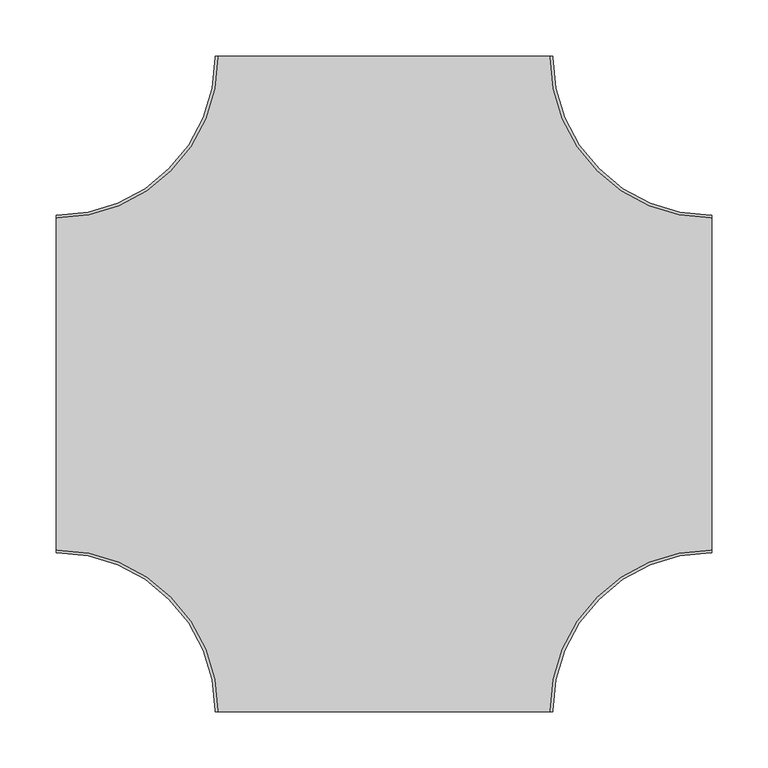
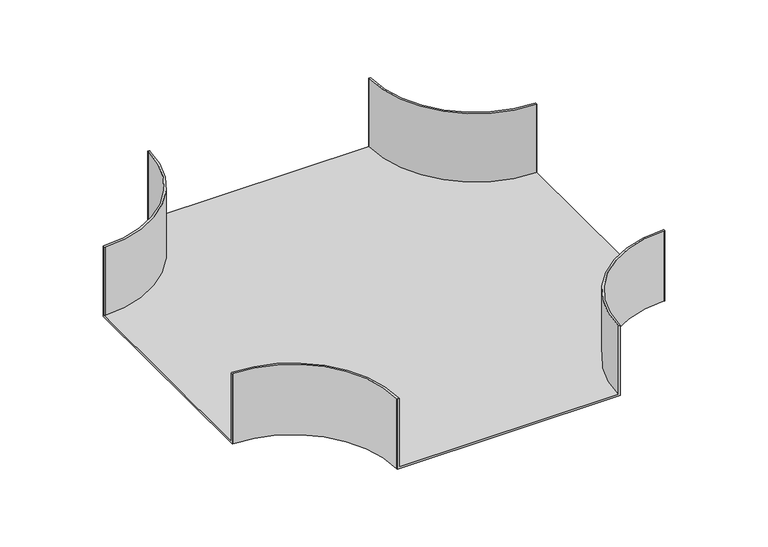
"""IFC4 building model written with IfcOpenShell, lengths in millimetres: cable carrier fitting geometry, BAKS_Horizontal cross over radius : CZKPP_H100."""

from ifc_helpers import new_model, si_unit, frame, origin, place, context, project, spatial, polyline, circle_curve, source, transform, mapped, element, save
from ifc_brep_helpers import plane_surface, cylinder_surface, revolved_surface, advanced_brep


def cable_carrier_fitting_ebb341f6(model_context):
    return source(origin(), model_context, "Body", "AdvancedBrep", [
        advanced_brep(
        [(-150.0, -290.0, 50.0), (-150.0, -291.0, 50.0), (-147.46, -291.0, 50.0), (-147.46, -290.0, 50.0), (-290.0, -147.46, 50.0), (-291.0, -147.46, 50.0), (-291.0, -150.0, 50.0), (-290.0, -150.0, 50.0), (150.0, -290.0, 50.0), (290.0, -150.0, 50.0), (291.0, -150.0, 50.0), (291.0, -147.46, 50.0), (290.0, -147.46, 50.0), (147.46, -290.0, 50.0), (147.46, -291.0, 50.0), (150.0, -291.0, 50.0), (-290.0, 150.0, 50.0), (-291.0, 150.0, 50.0), (-291.0, 147.46, 50.0), (-290.0, 147.46, 50.0), (-147.46, 290.0, 50.0), (-147.46, 291.0, 50.0), (-150.0, 291.0, 50.0), (-150.0, 290.0, 50.0), (147.46, 290.0, 50.0), (290.0, 147.46, 50.0), (291.0, 147.46, 50.0), (291.0, 150.0, 50.0), (290.0, 150.0, 50.0), (150.0, 290.0, 50.0), (150.0, 291.0, 50.0), (147.46, 291.0, 50.0), (-150.0, -290.0, -50.0), (-290.0, -150.0, -50.0), (-291.0, -150.0, -50.0), (-291.0, 150.0, -50.0), (-290.0, 150.0, -50.0), (-150.0, 290.0, -50.0), (-150.0, 291.0, -50.0), (150.0, 291.0, -50.0), (150.0, 290.0, -50.0), (290.0, 150.0, -50.0), (291.0, 150.0, -50.0), (291.0, -150.0, -50.0), (290.0, -150.0, -50.0), (150.0, -290.0, -50.0), (150.0, -291.0, -50.0), (-150.0, -291.0, -50.0), (-150.0, -290.0, -47.46), (147.46, -291.0, -47.46), (-147.46, -291.0, -47.46), (-147.46, -290.0, -47.46), (-290.0, -147.46, -47.46), (-291.0, -147.46, -47.46), (-291.0, 147.46, -47.46), (-290.0, -150.0, -47.46), (150.0, -290.0, -47.46), (290.0, -150.0, -47.46), (291.0, 147.46, -47.46), (291.0, -147.46, -47.46), (290.0, -147.46, -47.46), (147.46, -290.0, -47.46), (290.0, 147.46, -47.46), (147.46, 290.0, -47.46), (147.46, 291.0, -47.46), (-147.46, 291.0, -47.46), (-147.46, 290.0, -47.46), (-290.0, 147.46, -47.46), (-290.0, 150.0, -47.46), (-150.0, 290.0, -47.46), (290.0, 150.0, -47.46), (150.0, 290.0, -47.46)],
        [
            (0, 1),
            (1, 2),
            (2, 3),
            (3, 4, circle_curve(frame((-290.0, -290.0, 50.0), z_axis=(0.0, 0.0, 1.0), x_axis=(1.0, 0.0, 0.0)), 142.54)),
            (4, 5),
            (5, 6),
            (6, 7),
            (7, 0, circle_curve(frame((-290.0, -290.0, 50.0), z_axis=(0.0, 0.0, -1.0), x_axis=(1.0, 0.0, 0.0)), 140.0)),
            (8, 9, circle_curve(frame((290.0, -290.0, 50.0), z_axis=(0.0, 0.0, -1.0), x_axis=(1.0, 0.0, 0.0)), 140.0)),
            (9, 10),
            (10, 11),
            (11, 12),
            (12, 13, circle_curve(frame((290.0, -290.0, 50.0), z_axis=(0.0, 0.0, 1.0), x_axis=(1.0, 0.0, 0.0)), 142.54)),
            (13, 14),
            (14, 15),
            (15, 8),
            (16, 17),
            (17, 18),
            (18, 19),
            (19, 20, circle_curve(frame((-290.0, 290.0, 50.0), z_axis=(0.0, 0.0, 1.0), x_axis=(1.0, 0.0, 0.0)), 142.54)),
            (20, 21),
            (21, 22),
            (22, 23),
            (23, 16, circle_curve(frame((-290.0, 290.0, 50.0), z_axis=(0.0, 0.0, -1.0), x_axis=(1.0, 0.0, 0.0)), 140.0)),
            (24, 25, circle_curve(frame((290.0, 290.0, 50.0), z_axis=(0.0, 0.0, 1.0), x_axis=(1.0, 0.0, 0.0)), 142.54)),
            (25, 26),
            (26, 27),
            (27, 28),
            (28, 29, circle_curve(frame((290.0, 290.0, 50.0), z_axis=(0.0, 0.0, -1.0), x_axis=(1.0, 0.0, 0.0)), 140.0)),
            (29, 30),
            (30, 31),
            (31, 24),
            (32, 33, circle_curve(frame((-290.0, -290.0, -50.0), z_axis=(0.0, 0.0, 1.0), x_axis=(1.0, 0.0, 0.0)), 140.0)),
            (33, 34),
            (34, 35),
            (35, 36),
            (36, 37, circle_curve(frame((-290.0, 290.0, -50.0), z_axis=(0.0, 0.0, 1.0), x_axis=(1.0, 0.0, 0.0)), 140.0)),
            (37, 38),
            (38, 39),
            (39, 40),
            (40, 41, circle_curve(frame((290.0, 290.0, -50.0), z_axis=(0.0, 0.0, 1.0), x_axis=(1.0, 0.0, 0.0)), 140.0)),
            (41, 42),
            (42, 43),
            (43, 44),
            (44, 45, circle_curve(frame((290.0, -290.0, -50.0), z_axis=(0.0, 0.0, 1.0), x_axis=(1.0, 0.0, 0.0)), 140.0)),
            (45, 46),
            (46, 47),
            (47, 32),
            (47, 1),
            (0, 48),
            (48, 32),
            (46, 15),
            (14, 49),
            (49, 50),
            (50, 2),
            (50, 51),
            (51, 3),
            (51, 52, circle_curve(frame((-290.0, -290.0, -47.46), z_axis=(0.0, 0.0, 1.0), x_axis=(1.0, 0.0, 0.0)), 142.54)),
            (52, 4),
            (52, 53),
            (53, 5),
            (53, 54),
            (54, 18),
            (17, 35),
            (34, 6),
            (33, 55),
            (55, 7),
            (8, 56),
            (56, 45),
            (44, 57),
            (57, 9),
            (43, 10),
            (42, 27),
            (26, 58),
            (58, 59),
            (59, 11),
            (59, 60),
            (60, 12),
            (60, 61, circle_curve(frame((290.0, -290.0, -47.46), z_axis=(0.0, 0.0, 1.0), x_axis=(1.0, 0.0, 0.0)), 142.54)),
            (61, 13),
            (61, 49),
            (58, 62),
            (62, 63, circle_curve(frame((290.0, 290.0, -47.46), z_axis=(0.0, 0.0, -1.0), x_axis=(1.0, 0.0, 0.0)), 142.54)),
            (63, 64),
            (64, 65),
            (65, 66),
            (66, 67, circle_curve(frame((-290.0, 290.0, -47.46), z_axis=(0.0, 0.0, -1.0), x_axis=(1.0, 0.0, 0.0)), 142.54)),
            (67, 54),
            (16, 68),
            (68, 36),
            (67, 19),
            (66, 20),
            (65, 21),
            (64, 31),
            (30, 39),
            (38, 22),
            (37, 69),
            (69, 23),
            (24, 63),
            (62, 25),
            (41, 70),
            (70, 28),
            (40, 71),
            (71, 29),
        ],
        [
            plane_surface(frame((-150.0, -290.0, 50.0), z_axis=(0.0, 0.0, 1.0), x_axis=(0.0, -1.0, 0.0))),
            plane_surface(frame((-150.0, -290.0, -50.0), z_axis=(0.0, 0.0, -1.0), x_axis=(0.0, 1.0, 0.0))),
            plane_surface(frame((-150.0, -290.0, 50.0), z_axis=(-1.0, 0.0, 0.0), x_axis=(0.0, 0.0, -1.0))),
            plane_surface(frame((-150.0, -291.0, 50.0), z_axis=(0.0, -1.0, 0.0), x_axis=(0.0, 0.0, -1.0))),
            plane_surface(frame((-147.46, -291.0, 50.0), z_axis=(1.0, 0.0, 0.0), x_axis=(0.0, 0.0, -1.0))),
            cylinder_surface(frame((-290.0, -290.0, -50.0), z_axis=(0.0, 0.0, 1.0), x_axis=(1.0, 0.0, 0.0)), 142.54),
            plane_surface(frame((-290.0, -147.46, 50.0), z_axis=(0.0, 1.0, 0.0), x_axis=(0.0, 0.0, -1.0))),
            plane_surface(frame((-291.0, -147.46, 50.0), z_axis=(-1.0, 0.0, 0.0), x_axis=(0.0, 0.0, -1.0))),
            plane_surface(frame((-291.0, -150.0, 50.0), z_axis=(2.605649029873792e-12, -1.0, 0.0), x_axis=(0.0, 0.0, -1.0))),
            revolved_surface(polyline([(-150.0, -290.0, -50.0), (-150.0, -290.0, 50.0)]), (-290.0, -290.0, -50.0), (0.0, 0.0, -1.0)),
            revolved_surface(polyline([(430.0, -290.0, -50.0), (430.0, -290.0, 50.0)]), (290.0, -290.0, 0.0), (0.0, 0.0, -1.0)),
            plane_surface(frame((290.0, -150.0, 50.0), z_axis=(-2.6056490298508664e-12, -1.0, 0.0), x_axis=(0.0, 0.0, -1.0))),
            plane_surface(frame((291.0, -150.0, 50.0), z_axis=(1.0, 0.0, 0.0), x_axis=(0.0, 0.0, -1.0))),
            plane_surface(frame((291.0, -147.46, 50.0), z_axis=(0.0, 1.0, 0.0), x_axis=(0.0, 0.0, -1.0))),
            cylinder_surface(frame((290.0, -290.0, 0.0), z_axis=(0.0, 0.0, 1.0), x_axis=(1.0, 0.0, 0.0)), 142.54),
            plane_surface(frame((147.46, -290.0, 50.0), z_axis=(-1.0, 0.0, 0.0), x_axis=(0.0, 0.0, -1.0))),
            plane_surface(frame((150.0, -291.0, 50.0), z_axis=(1.0, 0.0, 0.0), x_axis=(0.0, 0.0, -1.0))),
            plane_surface(frame((-150.0, -290.0, -47.46), z_axis=(0.0, 0.0, 1.0), x_axis=(1.8104184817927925e-12, -1.0, 0.0))),
            plane_surface(frame((-290.0, 150.0, 50.0), z_axis=(4.404223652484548e-11, 1.0, 0.0), x_axis=(0.0, 0.0, -1.0))),
            plane_surface(frame((-291.0, 147.46, 50.0), z_axis=(-4.673248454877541e-11, -1.0, 0.0), x_axis=(0.0, 0.0, -1.0))),
            cylinder_surface(frame((-290.0, 290.0, 0.0), z_axis=(0.0, 0.0, 1.0), x_axis=(1.0, 0.0, 0.0)), 142.54),
            plane_surface(frame((-147.46, 290.0, 50.0), z_axis=(1.0, -1.4889423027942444e-12, 0.0), x_axis=(0.0, 0.0, -1.0))),
            plane_surface(frame((-147.46, 291.0, 50.0), z_axis=(0.0, 1.0, 0.0), x_axis=(0.0, 0.0, -1.0))),
            plane_surface(frame((-150.0, 291.0, 50.0), z_axis=(-1.0, 1.8104184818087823e-12, 0.0), x_axis=(0.0, 0.0, -1.0))),
            revolved_surface(polyline([(-150.0, 290.0, -50.0), (-150.0, 290.0, 50.0)]), (-290.0, 290.0, 0.0), (0.0, 0.0, -1.0)),
            cylinder_surface(frame((290.0, 290.0, 0.0), z_axis=(0.0, 0.0, 1.0), x_axis=(1.0, 0.0, 0.0)), 142.54),
            plane_surface(frame((290.0, 147.46, 50.0), z_axis=(0.0, -1.0, 0.0), x_axis=(0.0, 0.0, -1.0))),
            plane_surface(frame((291.0, 150.0, 50.0), z_axis=(0.0, 1.0, 0.0), x_axis=(0.0, 0.0, -1.0))),
            revolved_surface(polyline([(430.0, 290.0, -50.0), (430.0, 290.0, 50.0)]), (290.0, 290.0, 0.0), (0.0, 0.0, -1.0)),
            plane_surface(frame((150.0, 290.0, 50.0), z_axis=(1.0, 2.1048229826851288e-11, 0.0), x_axis=(0.0, 0.0, -1.0))),
            plane_surface(frame((147.46, 291.0, 50.0), z_axis=(-1.0, -2.1640422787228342e-11, 0.0), x_axis=(0.0, 0.0, -1.0))),
        ],
        [
            (0, [[1, 2, 3, 4, 5, 6, 7, 8]]),
            (0, [[9, 10, 11, 12, 13, 14, 15, 16]]),
            (0, [[17, 18, 19, 20, 21, 22, 23, 24]]),
            (0, [[25, 26, 27, 28, 29, 30, 31, 32]]),
            (1, [[33, 34, 35, 36, 37, 38, 39, 40, 41, 42, 43, 44, 45, 46, 47, 48]]),
            (2, [[49, -1, 50, 51, -48]]),
            (3, [[-2, -49, -47, 52, -15, 53, 54, 55]]),
            (4, [[-3, -55, 56, 57]]),
            (5, [[-4, -57, 58, 59]]),
            (6, [[-5, -59, 60, 61]]),
            (7, [[-6, -61, 62, 63, -18, 64, -35, 65]]),
            (8, [[-7, -65, -34, 66, 67]]),
            (9, [[-8, -67, -66, -33, -51, -50]]),
            (10, [[-9, 68, 69, -45, 70, 71]]),
            (11, [[72, -10, -71, -70, -44]]),
            (12, [[-11, -72, -43, 73, -27, 74, 75, 76]]),
            (13, [[-12, -76, 77, 78]]),
            (14, [[-13, -78, 79, 80]]),
            (15, [[-14, -80, 81, -53]]),
            (16, [[-16, -52, -46, -69, -68]]),
            (17, [[-54, -81, -79, -77, -75, 82, 83, 84, 85, 86, 87, 88, -62, -60, -58, -56]]),
            (18, [[-64, -17, 89, 90, -36]]),
            (19, [[-19, -63, -88, 91]]),
            (20, [[-20, -91, -87, 92]]),
            (21, [[-21, -92, -86, 93]]),
            (22, [[-22, -93, -85, 94, -31, 95, -39, 96]]),
            (23, [[-23, -96, -38, 97, 98]]),
            (24, [[-24, -98, -97, -37, -90, -89]]),
            (25, [[-25, 99, -83, 100]]),
            (26, [[-26, -100, -82, -74]]),
            (27, [[-28, -73, -42, 101, 102]]),
            (28, [[-29, -102, -101, -41, 103, 104]]),
            (29, [[-95, -30, -104, -103, -40]]),
            (30, [[-32, -94, -84, -99]]),
        ],
    ),
    ])


if __name__ == "__main__":
    model = new_model("IFC4")
    model_context = context("Model", 3, world=origin())
    ifc_project = project(units=[si_unit("LENGTHUNIT", "METRE", prefix="MILLI")], contexts=[model_context])
    site = spatial("IfcSite", under=ifc_project)
    building = spatial("IfcBuilding", under=site)
    placement = place(None, origin())
    cable_carrier_fitting_shape = cable_carrier_fitting_ebb341f6(model_context)
    element("IfcCableCarrierFitting", 1, ObjectType="BAKS_Horizontal cross over radius : CZKPP_H100", at=placement, inside=building, context=model_context, shape_type="MappedRepresentation", body=[
        mapped(cable_carrier_fitting_shape, transform((0.0, 0.0, 0.0), x_axis=(1.0, 0.0, 0.0), y_axis=(0.0, 1.0, 0.0), z_axis=(0.0, 0.0, 1.0))),
    ])
    save(model, "model.ifc")
